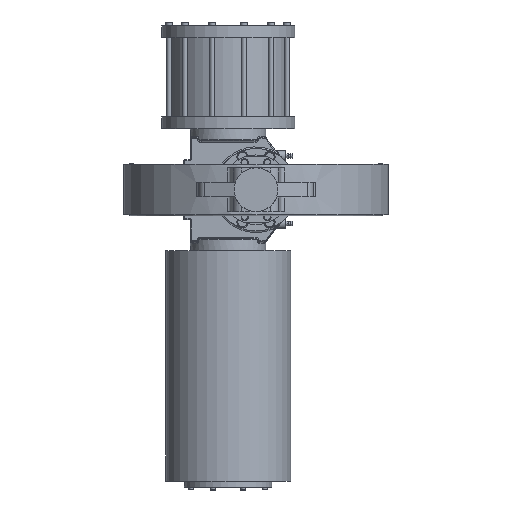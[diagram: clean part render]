
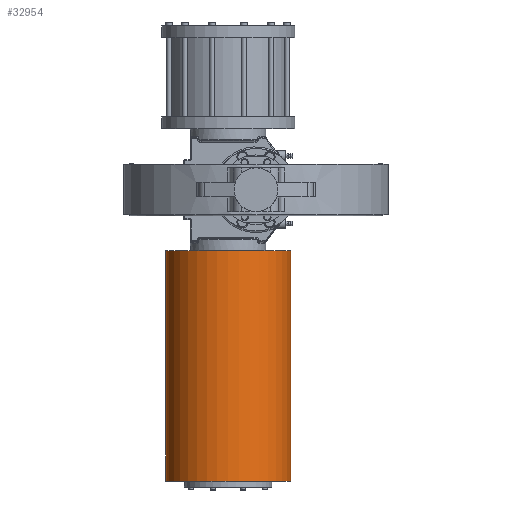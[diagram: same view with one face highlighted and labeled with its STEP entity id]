
A CAD part, front view. The second image highlights one B-rep face of the part: STEP entity #32954.
In plain terms, the highlighted cylindrical face has radius 315 mm (diameter 630 mm), a partial arc.
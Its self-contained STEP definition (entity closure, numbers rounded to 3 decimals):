
#510 = VERTEX_POINT ( 'NONE', #8589 ) ;
#1801 = DIRECTION ( 'NONE',  ( 1., 0., 0. ) ) ;
#2358 = EDGE_CURVE ( 'NONE', #32036, #15950, #28213, .T. ) ;
#2607 = DIRECTION ( 'NONE',  ( 0., 0., -1. ) ) ;
#3276 = LINE ( 'NONE', #26128, #15248 ) ;
#4308 = CARTESIAN_POINT ( 'NONE',  ( 1466., 0., 315. ) ) ;
#7060 = EDGE_CURVE ( 'NONE', #32036, #19868, #3276, .T. ) ;
#7244 = CARTESIAN_POINT ( 'NONE',  ( 306., 0., 315. ) ) ;
#8104 = ORIENTED_EDGE ( 'NONE', *, *, #15179, .T. ) ;
#8216 = LINE ( 'NONE', #15873, #27885 ) ;
#8589 = CARTESIAN_POINT ( 'NONE',  ( 1466., 0., -315. ) ) ;
#9970 = DIRECTION ( 'NONE',  ( 1., 0., 0. ) ) ;
#10071 = ORIENTED_EDGE ( 'NONE', *, *, #7060, .F. ) ;
#10829 = CIRCLE ( 'NONE', #27853, 315. ) ;
#12020 = CARTESIAN_POINT ( 'NONE',  ( 306., 0., 0. ) ) ;
#13102 = CARTESIAN_POINT ( 'NONE',  ( 306., 0., -315. ) ) ;
#13372 = DIRECTION ( 'NONE',  ( 1., 0., 0. ) ) ;
#15179 = EDGE_CURVE ( 'NONE', #15950, #510, #8216, .T. ) ;
#15248 = VECTOR ( 'NONE', #15492, 1000. ) ;
#15492 = DIRECTION ( 'NONE',  ( 1., 0., 0. ) ) ;
#15873 = CARTESIAN_POINT ( 'NONE',  ( 0., 0., -315. ) ) ;
#15950 = VERTEX_POINT ( 'NONE', #13102 ) ;
#17760 = AXIS2_PLACEMENT_3D ( 'NONE', #17943, #9970, #2607 ) ;
#17943 = CARTESIAN_POINT ( 'NONE',  ( 0., 0., 0. ) ) ;
#19868 = VERTEX_POINT ( 'NONE', #4308 ) ;
#20671 = ORIENTED_EDGE ( 'NONE', *, *, #2358, .T. ) ;
#23286 = CYLINDRICAL_SURFACE ( 'NONE', #17760, 315. ) ;
#24260 = DIRECTION ( 'NONE',  ( 0., 0., -1. ) ) ;
#25138 = FACE_OUTER_BOUND ( 'NONE', #31184, .T. ) ;
#26128 = CARTESIAN_POINT ( 'NONE',  ( 0., 0., 315. ) ) ;
#27853 = AXIS2_PLACEMENT_3D ( 'NONE', #32088, #29905, #24260 ) ;
#27885 = VECTOR ( 'NONE', #13372, 1000. ) ;
#28213 = CIRCLE ( 'NONE', #30338, 315. ) ;
#29883 = ORIENTED_EDGE ( 'NONE', *, *, #31604, .F. ) ;
#29905 = DIRECTION ( 'NONE',  ( 1., 0., 0. ) ) ;
#30338 = AXIS2_PLACEMENT_3D ( 'NONE', #12020, #1801, #32164 ) ;
#31184 = EDGE_LOOP ( 'NONE', ( #10071, #20671, #8104, #29883 ) ) ;
#31604 = EDGE_CURVE ( 'NONE', #19868, #510, #10829, .T. ) ;
#32036 = VERTEX_POINT ( 'NONE', #7244 ) ;
#32088 = CARTESIAN_POINT ( 'NONE',  ( 1466., 0., 0. ) ) ;
#32164 = DIRECTION ( 'NONE',  ( 0., 0., -1. ) ) ;
#32954 = ADVANCED_FACE ( 'NONE', ( #25138 ), #23286, .T. ) ;
